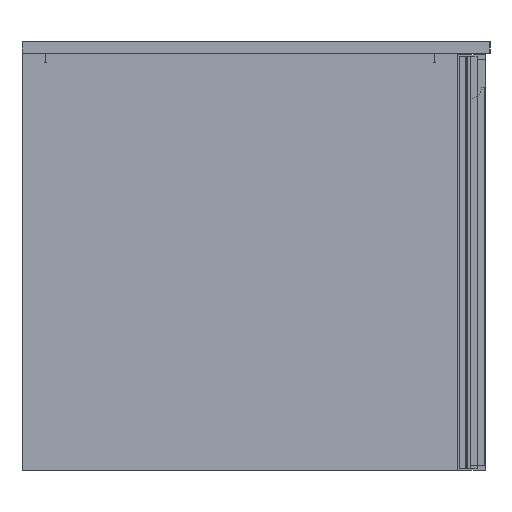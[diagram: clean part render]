
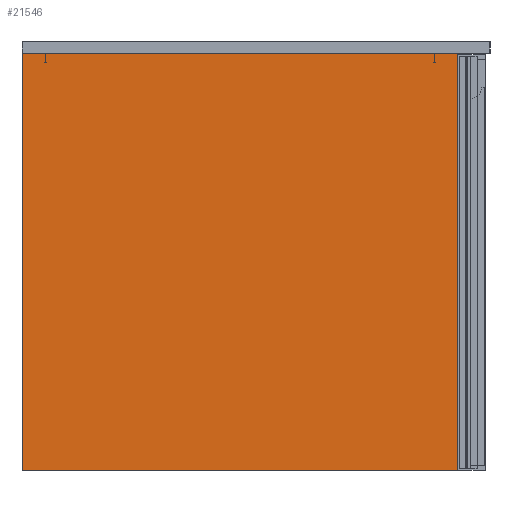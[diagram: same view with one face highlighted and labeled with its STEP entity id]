
A CAD part, left-side view. The second image highlights one B-rep face of the part: STEP entity #21546.
In plain terms, the highlighted planar face has unit normal (-1, 0, 0).
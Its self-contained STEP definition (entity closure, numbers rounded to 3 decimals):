
#249 = DIRECTION ( 'NONE',  ( 0., 0., -1. ) ) ;
#1501 = EDGE_CURVE ( 'NONE', #24557, #5935, #13155, .T. ) ;
#1686 = DIRECTION ( 'NONE',  ( 0., 0., -1. ) ) ;
#2996 = CARTESIAN_POINT ( 'NONE',  ( -9160.195, 749.252, 1457.604 ) ) ;
#3814 = VECTOR ( 'NONE', #3841, 1000. ) ;
#3841 = DIRECTION ( 'NONE',  ( 0., 1., 0. ) ) ;
#5935 = VERTEX_POINT ( 'NONE', #8469 ) ;
#6380 = VECTOR ( 'NONE', #249, 1000. ) ;
#6575 = DIRECTION ( 'NONE',  ( 0., 0., 1. ) ) ;
#6692 = CARTESIAN_POINT ( 'NONE',  ( -9160.195, 984.252, 1232.604 ) ) ;
#7095 = CARTESIAN_POINT ( 'NONE',  ( -9160.195, 984.252, 1007.604 ) ) ;
#8469 = CARTESIAN_POINT ( 'NONE',  ( -9160.195, 514.252, 1007.604 ) ) ;
#9081 = EDGE_CURVE ( 'NONE', #5935, #16213, #17108, .T. ) ;
#11192 = CARTESIAN_POINT ( 'NONE',  ( -9160.195, 749.252, 1232.604 ) ) ;
#12234 = EDGE_CURVE ( 'NONE', #16213, #13068, #14558, .T. ) ;
#13068 = VERTEX_POINT ( 'NONE', #21798 ) ;
#13069 = FACE_OUTER_BOUND ( 'NONE', #15149, .T. ) ;
#13155 = LINE ( 'NONE', #16893, #6380 ) ;
#13224 = EDGE_CURVE ( 'NONE', #13068, #24557, #16245, .T. ) ;
#13324 = VECTOR ( 'NONE', #14875, 1000. ) ;
#13604 = CARTESIAN_POINT ( 'NONE',  ( -9160.195, 514.252, 1457.604 ) ) ;
#14558 = LINE ( 'NONE', #6692, #20492 ) ;
#14875 = DIRECTION ( 'NONE',  ( 0., -1., 0. ) ) ;
#15149 = EDGE_LOOP ( 'NONE', ( #20375, #18257, #18605, #19642 ) ) ;
#16213 = VERTEX_POINT ( 'NONE', #7095 ) ;
#16245 = LINE ( 'NONE', #2996, #13324 ) ;
#16893 = CARTESIAN_POINT ( 'NONE',  ( -9160.195, 514.252, 1232.604 ) ) ;
#17108 = LINE ( 'NONE', #21012, #3814 ) ;
#18153 = AXIS2_PLACEMENT_3D ( 'NONE', #11192, #18829, #1686 ) ;
#18257 = ORIENTED_EDGE ( 'NONE', *, *, #1501, .F. ) ;
#18605 = ORIENTED_EDGE ( 'NONE', *, *, #13224, .F. ) ;
#18829 = DIRECTION ( 'NONE',  ( 1., 0., 0. ) ) ;
#19642 = ORIENTED_EDGE ( 'NONE', *, *, #12234, .F. ) ;
#20375 = ORIENTED_EDGE ( 'NONE', *, *, #9081, .F. ) ;
#20492 = VECTOR ( 'NONE', #6575, 1000. ) ;
#20716 = PLANE ( 'NONE',  #18153 ) ;
#21012 = CARTESIAN_POINT ( 'NONE',  ( -9160.195, 749.252, 1007.604 ) ) ;
#21546 = ADVANCED_FACE ( 'NONE', ( #13069 ), #20716, .F. ) ;
#21798 = CARTESIAN_POINT ( 'NONE',  ( -9160.195, 984.252, 1457.604 ) ) ;
#24557 = VERTEX_POINT ( 'NONE', #13604 ) ;
